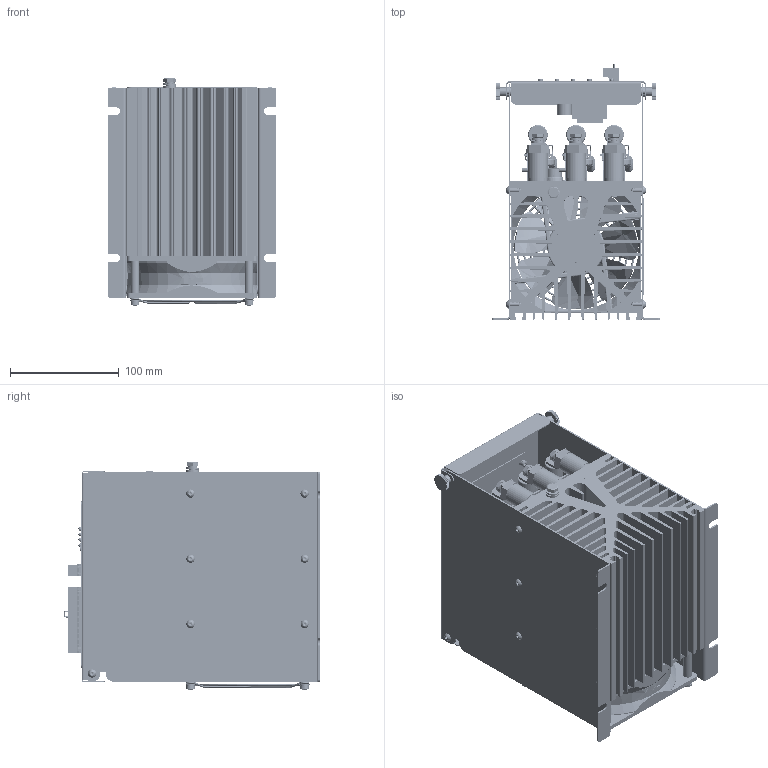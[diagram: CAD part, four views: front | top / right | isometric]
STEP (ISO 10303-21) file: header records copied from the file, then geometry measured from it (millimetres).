
FILE_DESCRIPTION(('STEP AP203'), '1');
FILE_NAME('ﾒﾐﾌ-3ﾌ-80-100 RS485', '', ('UNSPECIFIED'), ('UNSPECIFIED'), 'ASCON STEP Converter 1.6', 'ASCON Math Kernel', '');
FILE_SCHEMA(('CONFIG_CONTROL_DESIGN'));
Length unit declared in the file: millimetre
Products named in the file (67): -K190 RS485; МР 32.0031.08;  04;  05; МР 83.0400.06; МР 83.0203.10; -ТРМ; МР 32.1000.03 01; МР 83.0603.06 СБ; M3x6; M3; МР 83.0605.14; M5x14; M5; МР 83.0605.12; M5x12; МР 83.0605.18; M5x18; -x12; МР 32.1000.04 01; МР 83.0606.14 СБ; M6x14; M6; МР 83.0036.01; AC; МР 83.0604.50 СБ; M4х50; M4; МР83.0400.03; МР 83.0336.04; МР 83.0336.02; TR Fastenings Ltd-M4X-1; МР 83.0336.03; МР 83.0336.01; МР 83.0136.02; МР 83.0136.01;  М4 Полиамидная; M4x10; МР 83.0203.02; x2
Assembly tree (157 placements, depth 3):
  (unnamed)
    (unnamed)
      (unnamed)
      (unnamed)  x2
      (unnamed)  x2
      (unnamed)
      (unnamed)
    -K190 RS485
    МР 32.0031.08
       04  x3
       05
    МР 83.0400.06  x6
    МР 83.0203.10  x3
    (unnamed)  x3
    (unnamed)  x3
    -ТРМ  x3
      (unnamed)
      (unnamed)
      (unnamed)
    МР 32.1000.03 01  x3
      (unnamed)
    МР 83.0603.06 СБ  x12
      M3x6
      M3
      M3
    МР 83.0605.14  x3
      M5x14
      M5
      M5
    МР 83.0605.12  x6
      M5x12
      M5
      M5
    МР 83.0605.18  x6
      M5x18
      M5
      M5
    -x12
    МР 32.1000.04 01
    МР 83.0606.14 СБ  x7
      M6x14
      M6
      M6
    МР 83.0036.01
    (unnamed)  x2
    AC
    МР 83.0604.50 СБ  x4
      M4х50
      M4
      M4
    МР83.0400.03  x4
    МР 83.0336.04
      МР 83.0336.02
      TR Fastenings Ltd-M4X-1  x2
    МР 83.0336.03
      МР 83.0336.01
      TR Fastenings Ltd-M4X-1  x2
    (unnamed)
    МР 83.0136.02
      МР 83.0136.01
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Bounding box: 155 x 235.12 x 209.2 mm (x, y, z)
Volume: 1738190.5 mm3; surface area: 971893.2 mm2
Topology: 240 solids, 246 shells, 20134 faces, 56177 edges, 37148 vertices
Faces by surface type: cylinder 11577, plane 7400, bspline 785, cone 160, torus 123, sphere 35, revolution 34, extrusion 20
Full cylindrical faces by diameter (mm): 0.7 x20, 0.8 x3, 1 x36, 1.1 x12, 1.4 x2, 1.5 x2, 1.8 x26, 2 x6, 2.4 x2, 2.459 x6, 2.85 x6, 3 x27, 3.1 x14, 3.2 x20, 3.3 x20, 3.4 x6, 3.9 x14, 4 x28, 4.134 x6, 4.2 x22, 4.3 x6, 4.572 x8, 4.917 x7, 4.95 x4, 5 x36, 5.1 x9, 5.3 x19, 5.38 x4, 5.5 x6, 6 x37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
Entity records: 756893 total; most frequent: CARTESIAN_POINT 176415, DIRECTION 100316, ORIENTED_EDGE 93780, EDGE_CURVE 46894, AXIS2_PLACEMENT_3D 38187, VERTEX_POINT 31342, VECTOR 23916, LINE 23906
